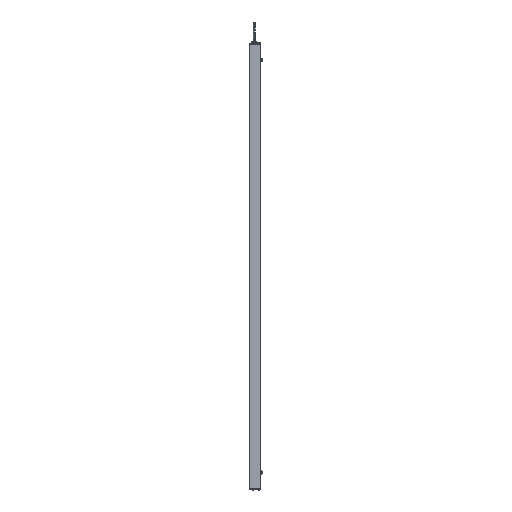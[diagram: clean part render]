
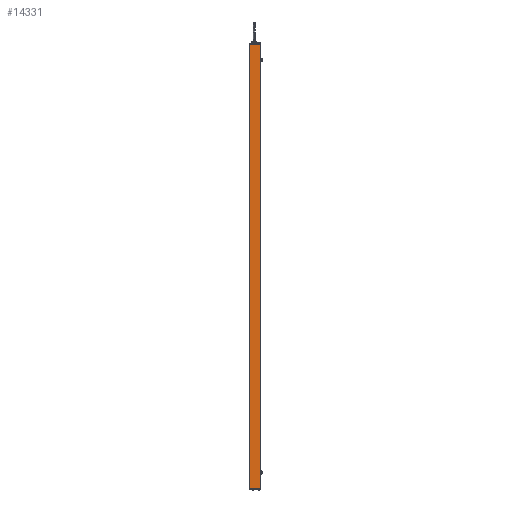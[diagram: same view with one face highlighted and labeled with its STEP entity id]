
A CAD part, left-side view. The second image highlights one B-rep face of the part: STEP entity #14331.
In plain terms, the highlighted planar face has unit normal (-1, 0, 0).
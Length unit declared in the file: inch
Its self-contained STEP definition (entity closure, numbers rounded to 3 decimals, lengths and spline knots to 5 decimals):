
#187 = CARTESIAN_POINT ( 'NONE',  ( -0.665, 0.015, -23.7075 ) ) ;
#405 = PLANE ( 'NONE',  #13572 ) ;
#1125 = CARTESIAN_POINT ( 'NONE',  ( -0.665, 1.105, 23.7075 ) ) ;
#2030 = ORIENTED_EDGE ( 'NONE', *, *, #10752, .T. ) ;
#2035 = ORIENTED_EDGE ( 'NONE', *, *, #9047, .T. ) ;
#4122 = VERTEX_POINT ( 'NONE', #1125 ) ;
#6870 = CARTESIAN_POINT ( 'NONE',  ( -0.665, 0., 23.7075 ) ) ;
#6990 = DIRECTION ( 'NONE',  ( 0., -1., 0. ) ) ;
#8227 = VERTEX_POINT ( 'NONE', #9469 ) ;
#8242 = DIRECTION ( 'NONE',  ( 0., 0., 1. ) ) ;
#8862 = EDGE_LOOP ( 'NONE', ( #17692, #12529, #2030, #2035 ) ) ;
#9047 = EDGE_CURVE ( 'NONE', #18145, #12494, #14687, .T. ) ;
#9469 = CARTESIAN_POINT ( 'NONE',  ( -0.665, 1.105, -23.7075 ) ) ;
#10469 = EDGE_CURVE ( 'NONE', #4122, #8227, #13997, .T. ) ;
#10722 = EDGE_CURVE ( 'NONE', #4122, #12494, #12824, .T. ) ;
#10741 = VECTOR ( 'NONE', #17875, 39.37008 ) ;
#10752 = EDGE_CURVE ( 'NONE', #8227, #18145, #16483, .T. ) ;
#11205 = VECTOR ( 'NONE', #6990, 39.37008 ) ;
#12494 = VERTEX_POINT ( 'NONE', #16953 ) ;
#12529 = ORIENTED_EDGE ( 'NONE', *, *, #10469, .T. ) ;
#12824 = LINE ( 'NONE', #6870, #13509 ) ;
#13153 = DIRECTION ( 'NONE',  ( 1., 0., 0. ) ) ;
#13509 = VECTOR ( 'NONE', #15746, 39.37008 ) ;
#13572 = AXIS2_PLACEMENT_3D ( 'NONE', #14975, #13153, #16979 ) ;
#13997 = LINE ( 'NONE', #14823, #10741 ) ;
#14103 = CARTESIAN_POINT ( 'NONE',  ( -0.665, 0.015, 23.7075 ) ) ;
#14331 = ADVANCED_FACE ( 'NONE', ( #16843 ), #405, .F. ) ;
#14687 = LINE ( 'NONE', #14103, #15411 ) ;
#14823 = CARTESIAN_POINT ( 'NONE',  ( -0.665, 1.105, 23.7075 ) ) ;
#14975 = CARTESIAN_POINT ( 'NONE',  ( -0.665, 0., 23.7075 ) ) ;
#15411 = VECTOR ( 'NONE', #8242, 39.37008 ) ;
#15556 = CARTESIAN_POINT ( 'NONE',  ( -0.665, 0., -23.7075 ) ) ;
#15746 = DIRECTION ( 'NONE',  ( 0., -1., 0. ) ) ;
#16483 = LINE ( 'NONE', #15556, #11205 ) ;
#16843 = FACE_OUTER_BOUND ( 'NONE', #8862, .T. ) ;
#16953 = CARTESIAN_POINT ( 'NONE',  ( -0.665, 0.015, 23.7075 ) ) ;
#16979 = DIRECTION ( 'NONE',  ( 0., 0., -1. ) ) ;
#17692 = ORIENTED_EDGE ( 'NONE', *, *, #10722, .F. ) ;
#17875 = DIRECTION ( 'NONE',  ( 0., 0., -1. ) ) ;
#18145 = VERTEX_POINT ( 'NONE', #187 ) ;
